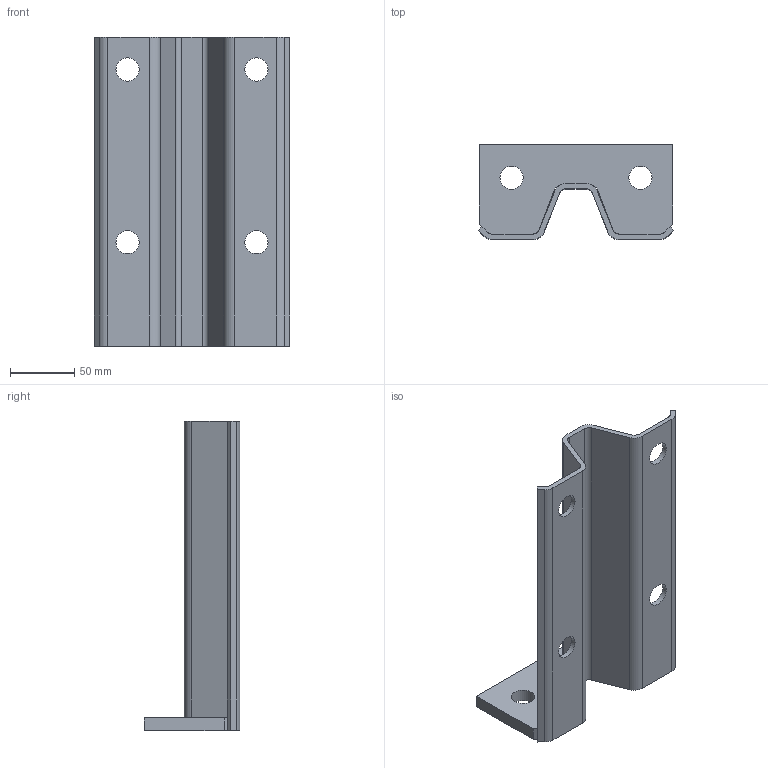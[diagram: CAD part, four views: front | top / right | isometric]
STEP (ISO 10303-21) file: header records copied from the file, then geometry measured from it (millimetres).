
FILE_DESCRIPTION(/* description */ (''),/* implementation_level */ '2;1');
FILE_NAME(/* name */ 'B285W100.stp',/* time_stamp */ '2023-07-03T11:08:42+02:00',/* author */ ('woriedl'),/* organization */ (''),/* preprocessor_version */ 'ST-DEVELOPER v19.2',/* originating_system */ 'AutoCAD Mechanical',/* authorisation */ '');
FILE_SCHEMA (('AUTOMOTIVE_DESIGN { 1 0 10303 214 3 1 1 }'));
Length unit declared in the file: centimetre
Products named in the file (1): Product
Bounding box: 151.72 x 74 x 240 mm (x, y, z)
Volume: 270969.2 mm3; surface area: 119944.4 mm2
Topology: 1 solids, 1 shells, 54 faces, 162 edges, 106 vertices
Faces by surface type: plane 30, cylinder 24
Full cylindrical faces by diameter (mm): 18 x6
Entity records: 1881 total; most frequent: ORIENTED_EDGE 324, CARTESIAN_POINT 323, DIRECTION 320, EDGE_CURVE 162, LINE 114, VECTOR 114, VERTEX_POINT 106, AXIS2_PLACEMENT_3D 103
